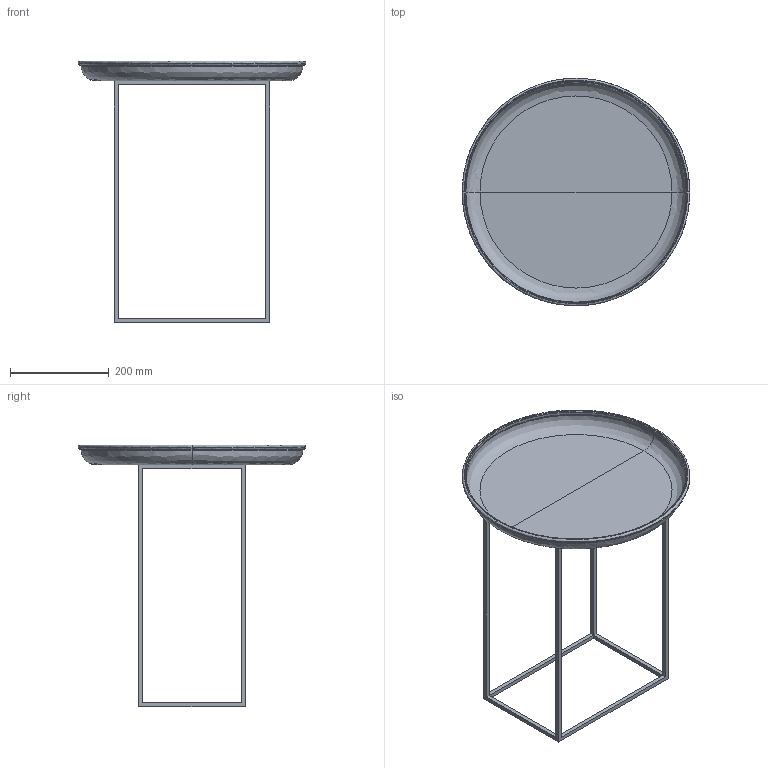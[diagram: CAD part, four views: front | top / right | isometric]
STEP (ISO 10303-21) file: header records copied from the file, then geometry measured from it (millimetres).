
FILE_DESCRIPTION(/* description */ (''),/* implementation_level */ '2;1');
FILE_NAME(/* name */ 'Duke-Coffee-Table_Small_NORR11',/* time_stamp */ '2024-09-27T11:12:29+02:00',/* author */ (''),/* organization */ (''),/* preprocessor_version */ 'ST-DEVELOPER v19.2',/* originating_system */ 'Rhino 8.11',/* authorisation */ '');
FILE_SCHEMA (('CONFIG_CONTROL_DESIGN'));
Length unit declared in the file: millimetre
Products named in the file (1): FamilyGeomCombination_514308-View 1
Bounding box: 461 x 461 x 530 mm (x, y, z)
Volume: 735990.6 mm3; surface area: 511321 mm2
Topology: 1 solids, 1 shells, 55 faces, 122 edges, 66 vertices
Faces by surface type: plane 37, bspline 12, cylinder 6
Entity records: 2617 total; most frequent: CARTESIAN_POINT 1571, ORIENTED_EDGE 244, EDGE_CURVE 122, B_SPLINE_CURVE_WITH_KNOTS 98, DIRECTION 95, AXIS2_PLACEMENT_3D 69, VERTEX_POINT 66, EDGE_LOOP 60
